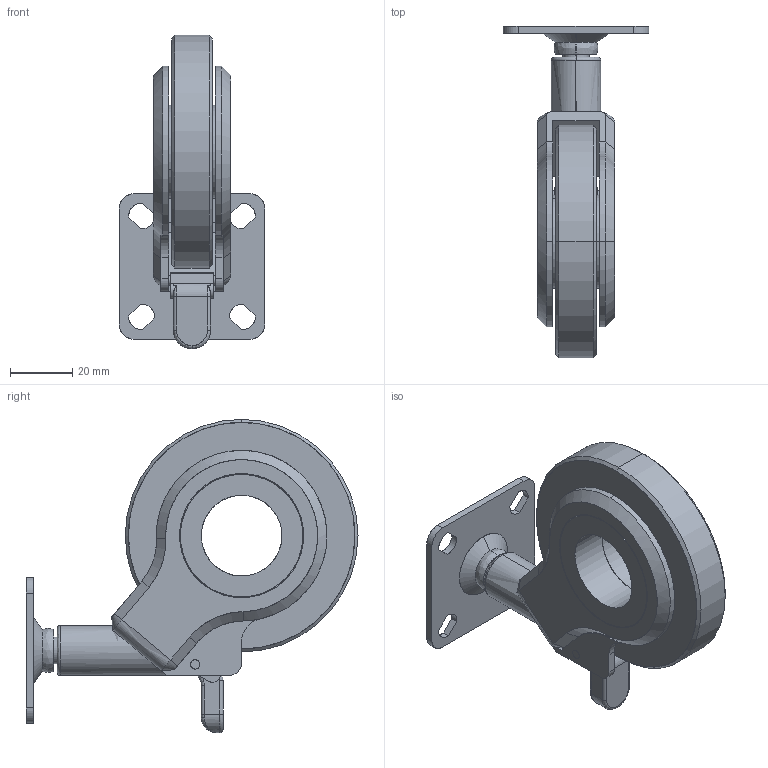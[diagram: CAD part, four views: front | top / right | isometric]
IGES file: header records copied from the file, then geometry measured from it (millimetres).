
Start section: SolidWorks IGES file using analytic representation for surfaces
Bounding box: 47 x 107 x 101 mm (x, y, z)
Surface area: 37970 mm2 (no closed solid volume)
Topology: 0 solids, 0 shells, 173 faces, 3055 edges, 3055 vertices
Faces by surface type: revolution 95, bspline 78
